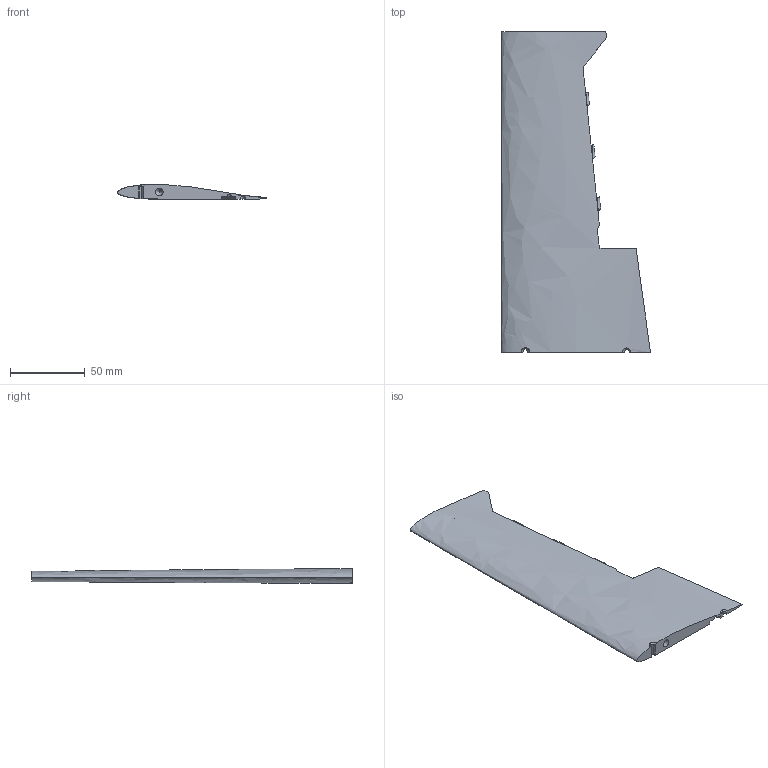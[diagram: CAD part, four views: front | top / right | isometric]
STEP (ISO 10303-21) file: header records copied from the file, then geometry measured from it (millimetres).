
FILE_DESCRIPTION(('Open CASCADE Model'),'2;1');
FILE_NAME('Open CASCADE Shape Model','2026-10-07T11:47:16',('Author'),( 'Open CASCADE'),'Open CASCADE STEP processor 7.9','Open CASCADE 7.9' ,'Unknown');
FILE_SCHEMA(('AUTOMOTIVE_DESIGN { 1 0 10303 214 1 1 1 1 }'));
Length unit declared in the file: millimetre
Products named in the file (1): Open CASCADE STEP translator 7.9 16
Bounding box: 99.95 x 215 x 9.95 mm (x, y, z)
Volume: 92593.9 mm3; surface area: 37422.8 mm2
Topology: 1 solids, 1 shells, 104 faces, 327 edges, 224 vertices
Faces by surface type: plane 81, cylinder 16, cone 4, bspline 3
Full cylindrical faces by diameter (mm): 1.6 x4, 2.58 x1, 5.2 x1
Entity records: 15124 total; most frequent: CARTESIAN_POINT 9351, DIRECTION 870, ORIENTED_EDGE 654, PCURVE 654, DEFINITIONAL_REPRESENTATION 654, B_SPLINE_CURVE_WITH_KNOTS 411, LINE 350, VECTOR 350
